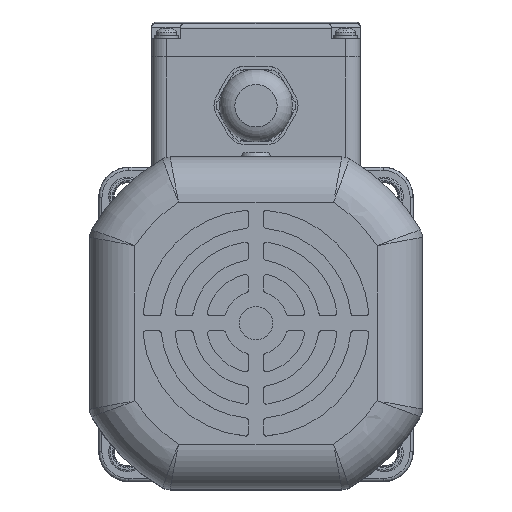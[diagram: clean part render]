
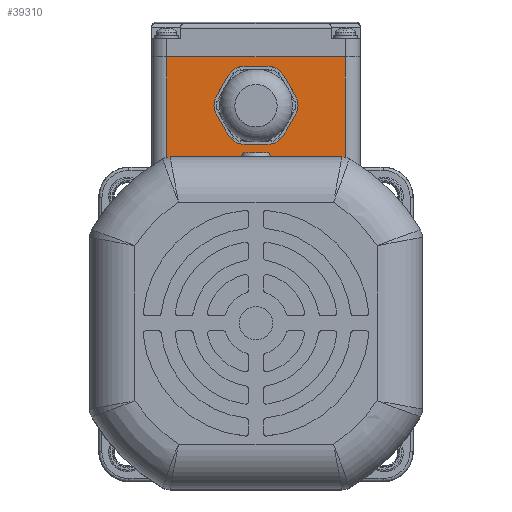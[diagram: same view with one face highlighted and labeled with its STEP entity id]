
A CAD part, top view. The second image highlights one B-rep face of the part: STEP entity #39310.
In plain terms, the highlighted planar face has unit normal (0, -0.009, 1) as drawn and (0, 0, 1) by its records, which use the part's own axes.
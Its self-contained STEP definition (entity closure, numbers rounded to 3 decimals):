
#948 = VERTEX_POINT ( 'NONE', #37596 ) ;
#2629 = PLANE ( 'NONE',  #23216 ) ;
#5579 = CARTESIAN_POINT ( 'NONE',  ( -34.5, 0., 37.5 ) ) ;
#5585 = CARTESIAN_POINT ( 'NONE',  ( -34.5, 0., 37.5 ) ) ;
#6323 = DIRECTION ( 'NONE',  ( 0., 0., 1. ) ) ;
#6464 = VECTOR ( 'NONE', #19562, 1000. ) ;
#7044 = VERTEX_POINT ( 'NONE', #22085 ) ;
#7357 = CARTESIAN_POINT ( 'NONE',  ( -29.5, 0., 37.5 ) ) ;
#7900 = ORIENTED_EDGE ( 'NONE', *, *, #33369, .T. ) ;
#9477 = CARTESIAN_POINT ( 'NONE',  ( -29.5, 36., 37.5 ) ) ;
#9578 = ORIENTED_EDGE ( 'NONE', *, *, #29174, .F. ) ;
#9787 = DIRECTION ( 'NONE',  ( 1., 0., 0. ) ) ;
#9831 = ORIENTED_EDGE ( 'NONE', *, *, #33005, .T. ) ;
#11316 = LINE ( 'NONE', #7357, #45426 ) ;
#15856 = LINE ( 'NONE', #35424, #6464 ) ;
#17075 = ORIENTED_EDGE ( 'NONE', *, *, #39050, .T. ) ;
#17517 = VECTOR ( 'NONE', #35813, 1000. ) ;
#19224 = EDGE_LOOP ( 'NONE', ( #9578, #17075, #7900, #9831 ) ) ;
#19562 = DIRECTION ( 'NONE',  ( 1., 0., 0. ) ) ;
#21462 = VECTOR ( 'NONE', #44620, 1000. ) ;
#22085 = CARTESIAN_POINT ( 'NONE',  ( 29.5, 0., 37.5 ) ) ;
#23216 = AXIS2_PLACEMENT_3D ( 'NONE', #5585, #6323, #9787 ) ;
#29174 = EDGE_CURVE ( 'NONE', #32458, #948, #15856, .T. ) ;
#30671 = DIRECTION ( 'NONE',  ( 0., -1., 0. ) ) ;
#32458 = VERTEX_POINT ( 'NONE', #9477 ) ;
#33005 = EDGE_CURVE ( 'NONE', #7044, #948, #44867, .T. ) ;
#33089 = LINE ( 'NONE', #5579, #17517 ) ;
#33369 = EDGE_CURVE ( 'NONE', #35456, #7044, #33089, .T. ) ;
#35424 = CARTESIAN_POINT ( 'NONE',  ( -34.5, 36., 37.5 ) ) ;
#35456 = VERTEX_POINT ( 'NONE', #48643 ) ;
#35813 = DIRECTION ( 'NONE',  ( 1., 0., 0. ) ) ;
#37596 = CARTESIAN_POINT ( 'NONE',  ( 29.5, 36., 37.5 ) ) ;
#39050 = EDGE_CURVE ( 'NONE', #32458, #35456, #11316, .T. ) ;
#39310 = ADVANCED_FACE ( 'NONE', ( #40277 ), #2629, .T. ) ;
#40277 = FACE_OUTER_BOUND ( 'NONE', #19224, .T. ) ;
#44620 = DIRECTION ( 'NONE',  ( 0., 1., 0. ) ) ;
#44867 = LINE ( 'NONE', #47852, #21462 ) ;
#45426 = VECTOR ( 'NONE', #30671, 1000. ) ;
#47852 = CARTESIAN_POINT ( 'NONE',  ( 29.5, 36., 37.5 ) ) ;
#48643 = CARTESIAN_POINT ( 'NONE',  ( -29.5, 0., 37.5 ) ) ;
